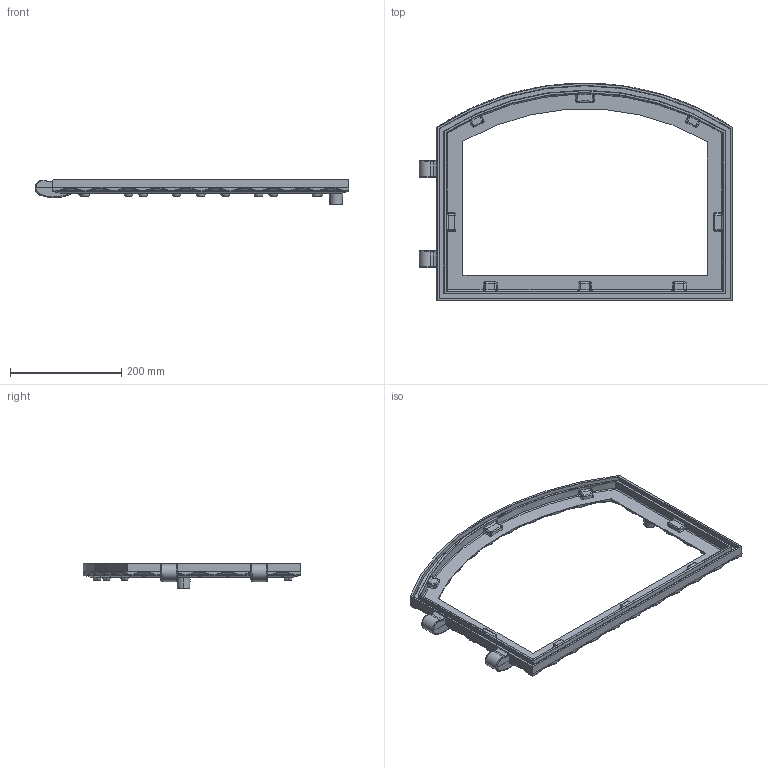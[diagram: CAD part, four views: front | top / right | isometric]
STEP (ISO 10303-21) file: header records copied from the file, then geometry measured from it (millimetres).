
FILE_DESCRIPTION (( 'STEP AP214' ), '1' );
FILE_NAME ('äâåðü 29.01.20.STEP', '2020-01-29T17:09:55', ( 'Ïîëüçîâàòåëü Windows' ), ( '' ), 'SwSTEP 2.0', 'SolidWorks 2017', '' );
FILE_SCHEMA (( 'AUTOMOTIVE_DESIGN' ));
Length unit declared in the file: millimetre
Products named in the file (1): äâåðü 29.01.20
Bounding box: 564.27 x 391.89 x 46 mm (x, y, z)
Volume: 1043977.2 mm3; surface area: 247050.8 mm2
Topology: 1 solids, 1 shells, 903 faces, 2060 edges, 1122 vertices
Faces by surface type: sphere 240, bspline 210, torus 194, cylinder 152, plane 92, cone 15
Entity records: 33172 total; most frequent: CARTESIAN_POINT 14670, ORIENTED_EDGE 4000, DIRECTION 3922, EDGE_CURVE 2000, AXIS2_PLACEMENT_3D 1777, VERTEX_POINT 1112, CIRCLE 1083, EDGE_LOOP 918
